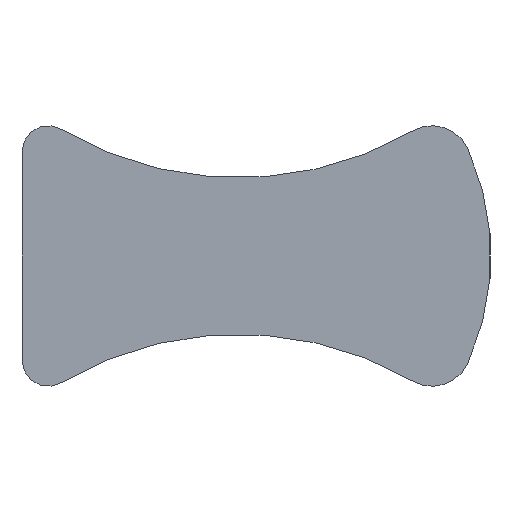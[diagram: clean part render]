
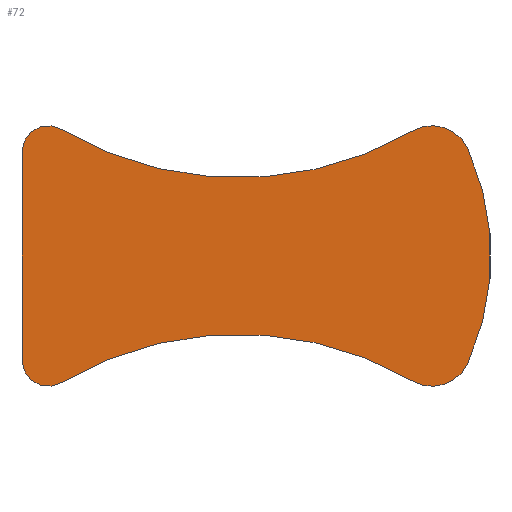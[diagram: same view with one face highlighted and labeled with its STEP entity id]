
A CAD part, left-side view. The second image highlights one B-rep face of the part: STEP entity #72.
In plain terms, the highlighted planar face has unit normal (-1, 0, 0).
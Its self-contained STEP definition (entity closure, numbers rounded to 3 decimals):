
#72 = ADVANCED_FACE( '', ( #152 ), #153, .F. );
#152 = FACE_OUTER_BOUND( '', #229, .T. );
#153 = PLANE( '', #230 );
#229 = EDGE_LOOP( '', ( #356, #357, #358, #359, #360, #361, #362, #363 ) );
#230 = AXIS2_PLACEMENT_3D( '', #364, #365, #366 );
#356 = ORIENTED_EDGE( '', *, *, #417, .F. );
#357 = ORIENTED_EDGE( '', *, *, #439, .F. );
#358 = ORIENTED_EDGE( '', *, *, #425, .T. );
#359 = ORIENTED_EDGE( '', *, *, #421, .F. );
#360 = ORIENTED_EDGE( '', *, *, #443, .F. );
#361 = ORIENTED_EDGE( '', *, *, #428, .F. );
#362 = ORIENTED_EDGE( '', *, *, #433, .T. );
#363 = ORIENTED_EDGE( '', *, *, #437, .F. );
#364 = CARTESIAN_POINT( '', ( -102., -1., 4. ) );
#365 = DIRECTION( '', ( 1., 0., 0. ) );
#366 = DIRECTION( '', ( 0., 0., -1. ) );
#417 = EDGE_CURVE( '', #487, #488, #489, .T. );
#421 = EDGE_CURVE( '', #493, #494, #495, .T. );
#425 = EDGE_CURVE( '', #499, #494, #500, .T. );
#428 = EDGE_CURVE( '', #503, #504, #505, .T. );
#433 = EDGE_CURVE( '', #503, #510, #511, .T. );
#437 = EDGE_CURVE( '', #488, #510, #515, .T. );
#439 = EDGE_CURVE( '', #499, #487, #517, .T. );
#443 = EDGE_CURVE( '', #504, #493, #522, .T. );
#487 = VERTEX_POINT( '', #568 );
#488 = VERTEX_POINT( '', #569 );
#489 = LINE( '', #570, #571 );
#493 = VERTEX_POINT( '', #577 );
#494 = VERTEX_POINT( '', #578 );
#495 = CIRCLE( '', #579, 1.5 );
#499 = VERTEX_POINT( '', #585 );
#500 = CIRCLE( '', #586, 13.34 );
#503 = VERTEX_POINT( '', #590 );
#504 = VERTEX_POINT( '', #591 );
#505 = CIRCLE( '', #592, 1.5 );
#510 = VERTEX_POINT( '', #599 );
#511 = CIRCLE( '', #600, 13.34 );
#515 = CIRCLE( '', #605, 1. );
#517 = CIRCLE( '', #607, 1. );
#522 = CIRCLE( '', #612, 10. );
#568 = CARTESIAN_POINT( '', ( -102., 0., -4. ) );
#569 = CARTESIAN_POINT( '', ( -102., 0., 4. ) );
#570 = CARTESIAN_POINT( '', ( -102., 0., -4. ) );
#571 = VECTOR( '', #666, 1000. );
#577 = CARTESIAN_POINT( '', ( -102., -17.113, -4.118 ) );
#578 = CARTESIAN_POINT( '', ( -102., -14.994, -4.798 ) );
#579 = AXIS2_PLACEMENT_3D( '', #669, #670, #671 );
#585 = CARTESIAN_POINT( '', ( -102., -1.509, -4.861 ) );
#586 = AXIS2_PLACEMENT_3D( '', #674, #675, #676 );
#590 = CARTESIAN_POINT( '', ( -102., -14.994, 4.798 ) );
#591 = CARTESIAN_POINT( '', ( -102., -17.113, 4.118 ) );
#592 = AXIS2_PLACEMENT_3D( '', #678, #679, #680 );
#599 = CARTESIAN_POINT( '', ( -102., -1.509, 4.861 ) );
#600 = AXIS2_PLACEMENT_3D( '', #683, #684, #685 );
#605 = AXIS2_PLACEMENT_3D( '', #687, #688, #689 );
#607 = AXIS2_PLACEMENT_3D( '', #690, #691, #692 );
#612 = AXIS2_PLACEMENT_3D( '', #696, #697, #698 );
#666 = DIRECTION( '', ( 0., 0., 1. ) );
#669 = CARTESIAN_POINT( '', ( -102., -15.746, -3.5 ) );
#670 = DIRECTION( '', ( 1., 0., 0. ) );
#671 = DIRECTION( '', ( 0., 0., -1. ) );
#674 = CARTESIAN_POINT( '', ( -102., -8.305, -16.34 ) );
#675 = DIRECTION( '', ( 1., 0., 0. ) );
#676 = DIRECTION( '', ( 0., 0., -1. ) );
#678 = CARTESIAN_POINT( '', ( -102., -15.746, 3.5 ) );
#679 = DIRECTION( '', ( 1., 0., 0. ) );
#680 = DIRECTION( '', ( 0., 0., -1. ) );
#683 = CARTESIAN_POINT( '', ( -102., -8.305, 16.34 ) );
#684 = DIRECTION( '', ( 1., 0., 0. ) );
#685 = DIRECTION( '', ( 0., 0., -1. ) );
#687 = CARTESIAN_POINT( '', ( -102., -1., 4. ) );
#688 = DIRECTION( '', ( 1., 0., 0. ) );
#689 = DIRECTION( '', ( 0., 0., -1. ) );
#690 = CARTESIAN_POINT( '', ( -102., -1., -4. ) );
#691 = DIRECTION( '', ( 1., 0., 0. ) );
#692 = DIRECTION( '', ( 0., 0., -1. ) );
#696 = CARTESIAN_POINT( '', ( -102., -8., 0. ) );
#697 = DIRECTION( '', ( 1., 0., 0. ) );
#698 = DIRECTION( '', ( 0., 0., -1. ) );
